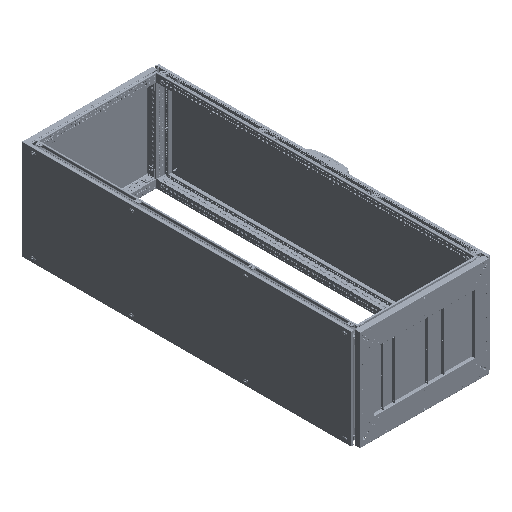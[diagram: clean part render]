
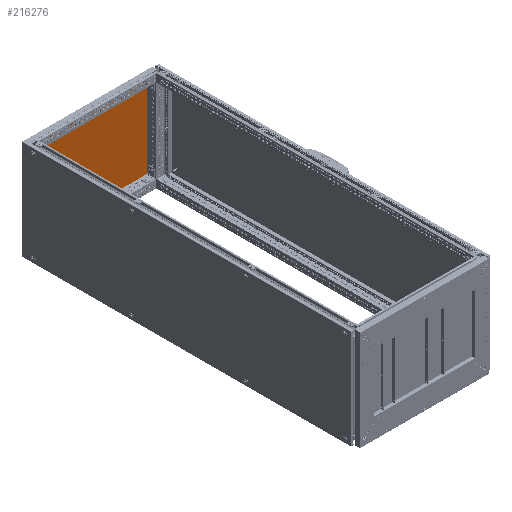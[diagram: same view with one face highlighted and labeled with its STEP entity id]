
A CAD part, isometric view. The second image highlights one B-rep face of the part: STEP entity #216276.
In plain terms, the highlighted planar face has unit normal (0, -1, 0).
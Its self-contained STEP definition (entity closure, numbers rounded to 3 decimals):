
#533 = EDGE_LOOP ( 'NONE', ( #283018, #368284, #26198, #177584, #328810, #270653, #421661, #430427 ) ) ;
#4474 = EDGE_CURVE ( 'NONE', #462183, #445381, #108908, .T. ) ;
#8315 = DIRECTION ( 'NONE',  ( 0., 0., -1. ) ) ;
#20423 = CARTESIAN_POINT ( 'NONE',  ( 245.01, 0., 345. ) ) ;
#26198 = ORIENTED_EDGE ( 'NONE', *, *, #571172, .T. ) ;
#29426 = AXIS2_PLACEMENT_3D ( 'NONE', #76957, #259720, #410610 ) ;
#39408 = DIRECTION ( 'NONE',  ( -1., 0., 0. ) ) ;
#40744 = LINE ( 'NONE', #418445, #442715 ) ;
#42508 = CARTESIAN_POINT ( 'NONE',  ( 245.01, 0., -350. ) ) ;
#44234 = CARTESIAN_POINT ( 'NONE',  ( 250.01, 0., -345. ) ) ;
#58716 = AXIS2_PLACEMENT_3D ( 'NONE', #426600, #83664, #464564 ) ;
#73828 = AXIS2_PLACEMENT_3D ( 'NONE', #20423, #454738, #206207 ) ;
#76957 = CARTESIAN_POINT ( 'NONE',  ( -287.7, 0., 382.5 ) ) ;
#83664 = DIRECTION ( 'NONE',  ( 0., -1., 0. ) ) ;
#108908 = LINE ( 'NONE', #253747, #344916 ) ;
#111812 = CARTESIAN_POINT ( 'NONE',  ( 245.01, 0., 350. ) ) ;
#112706 = CIRCLE ( 'NONE', #585014, 5. ) ;
#132034 = DIRECTION ( 'NONE',  ( 0., 0., -1. ) ) ;
#142275 = VERTEX_POINT ( 'NONE', #326880 ) ;
#150331 = VERTEX_POINT ( 'NONE', #215522 ) ;
#172897 = VERTEX_POINT ( 'NONE', #356235 ) ;
#177584 = ORIENTED_EDGE ( 'NONE', *, *, #4474, .T. ) ;
#184385 = CIRCLE ( 'NONE', #73828, 5. ) ;
#206207 = DIRECTION ( 'NONE',  ( 0., 0., -1. ) ) ;
#215522 = CARTESIAN_POINT ( 'NONE',  ( -250.01, 0., 345. ) ) ;
#216276 = ADVANCED_FACE ( 'NONE', ( #404411 ), #218660, .F. ) ;
#217429 = EDGE_CURVE ( 'NONE', #150331, #281814, #40744, .T. ) ;
#218660 = PLANE ( 'NONE',  #29426 ) ;
#249331 = EDGE_CURVE ( 'NONE', #250277, #172897, #511661, .T. ) ;
#250277 = VERTEX_POINT ( 'NONE', #408686 ) ;
#253747 = CARTESIAN_POINT ( 'NONE',  ( 250.01, 0., -345. ) ) ;
#259720 = DIRECTION ( 'NONE',  ( 0., 1., 0. ) ) ;
#263349 = CARTESIAN_POINT ( 'NONE',  ( -245.01, 0., 350. ) ) ;
#270653 = ORIENTED_EDGE ( 'NONE', *, *, #456029, .T. ) ;
#281363 = EDGE_CURVE ( 'NONE', #445381, #142275, #184385, .T. ) ;
#281814 = VERTEX_POINT ( 'NONE', #284451 ) ;
#283018 = ORIENTED_EDGE ( 'NONE', *, *, #538376, .T. ) ;
#284451 = CARTESIAN_POINT ( 'NONE',  ( -250.01, 0., -345. ) ) ;
#304598 = CARTESIAN_POINT ( 'NONE',  ( 250.01, 0., 345. ) ) ;
#324288 = DIRECTION ( 'NONE',  ( 0., 0., -1. ) ) ;
#326880 = CARTESIAN_POINT ( 'NONE',  ( 245.01, 0., 350. ) ) ;
#328810 = ORIENTED_EDGE ( 'NONE', *, *, #281363, .T. ) ;
#340029 = CIRCLE ( 'NONE', #58716, 5. ) ;
#343019 = AXIS2_PLACEMENT_3D ( 'NONE', #569791, #563570, #324288 ) ;
#344916 = VECTOR ( 'NONE', #445688, 1000. ) ;
#347942 = LINE ( 'NONE', #111812, #459649 ) ;
#356235 = CARTESIAN_POINT ( 'NONE',  ( -245.01, 0., -350. ) ) ;
#368284 = ORIENTED_EDGE ( 'NONE', *, *, #249331, .F. ) ;
#389183 = DIRECTION ( 'NONE',  ( 0., -1., 0. ) ) ;
#398467 = CARTESIAN_POINT ( 'NONE',  ( 245.01, 0., -345. ) ) ;
#404411 = FACE_OUTER_BOUND ( 'NONE', #533, .T. ) ;
#408686 = CARTESIAN_POINT ( 'NONE',  ( 245.01, 0., -350. ) ) ;
#410610 = DIRECTION ( 'NONE',  ( 0., 0., 1. ) ) ;
#418445 = CARTESIAN_POINT ( 'NONE',  ( -250.01, 0., 345. ) ) ;
#421661 = ORIENTED_EDGE ( 'NONE', *, *, #451541, .T. ) ;
#426600 = CARTESIAN_POINT ( 'NONE',  ( -245.01, 0., -345. ) ) ;
#430427 = ORIENTED_EDGE ( 'NONE', *, *, #217429, .T. ) ;
#442715 = VECTOR ( 'NONE', #132034, 1000. ) ;
#445381 = VERTEX_POINT ( 'NONE', #304598 ) ;
#445688 = DIRECTION ( 'NONE',  ( 0., 0., 1. ) ) ;
#451541 = EDGE_CURVE ( 'NONE', #594234, #150331, #513831, .T. ) ;
#454738 = DIRECTION ( 'NONE',  ( 0., -1., 0. ) ) ;
#456029 = EDGE_CURVE ( 'NONE', #142275, #594234, #347942, .T. ) ;
#459649 = VECTOR ( 'NONE', #540031, 1000. ) ;
#462183 = VERTEX_POINT ( 'NONE', #44234 ) ;
#464564 = DIRECTION ( 'NONE',  ( 0., 0., -1. ) ) ;
#511226 = VECTOR ( 'NONE', #39408, 1000. ) ;
#511661 = LINE ( 'NONE', #42508, #511226 ) ;
#513831 = CIRCLE ( 'NONE', #343019, 5. ) ;
#538376 = EDGE_CURVE ( 'NONE', #281814, #172897, #340029, .T. ) ;
#540031 = DIRECTION ( 'NONE',  ( -1., 0., 0. ) ) ;
#563570 = DIRECTION ( 'NONE',  ( 0., -1., 0. ) ) ;
#569791 = CARTESIAN_POINT ( 'NONE',  ( -245.01, 0., 345. ) ) ;
#571172 = EDGE_CURVE ( 'NONE', #250277, #462183, #112706, .T. ) ;
#585014 = AXIS2_PLACEMENT_3D ( 'NONE', #398467, #389183, #8315 ) ;
#594234 = VERTEX_POINT ( 'NONE', #263349 ) ;
